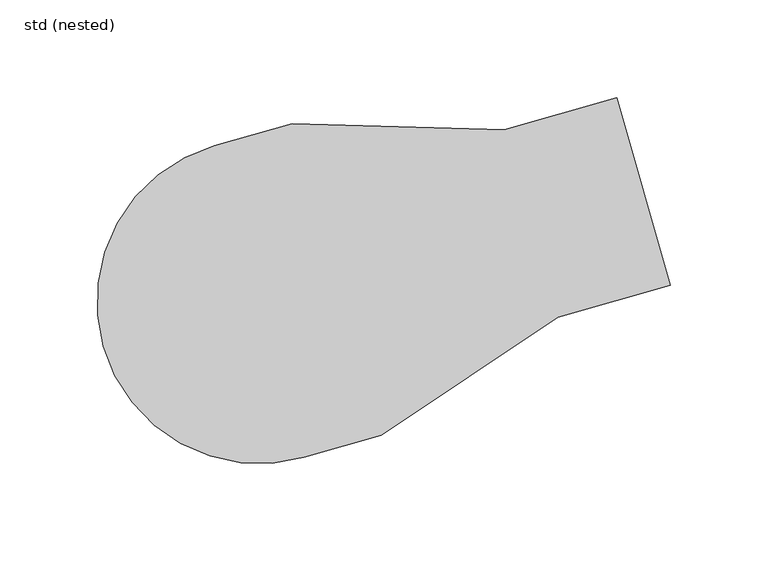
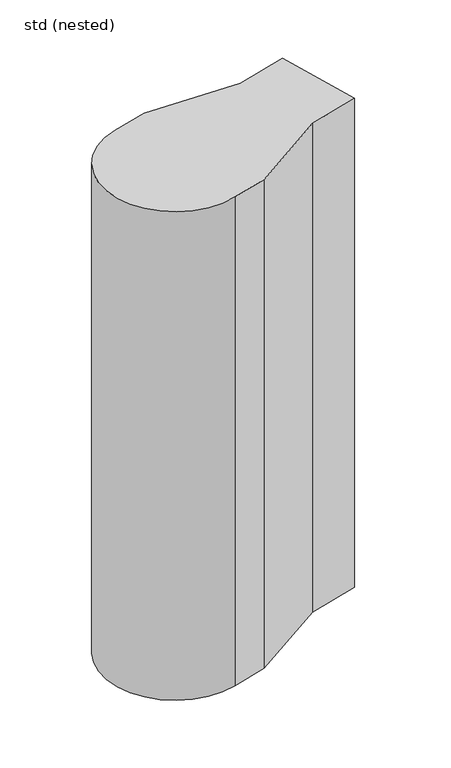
"""IFC4 building model written with IfcOpenShell, lengths in millimetres: unitary equipment geometry, ZZZ_do not use_ME_WPB_pump muliflex_ACO -SH : std (nested)."""

from ifc_helpers import new_model, si_unit, point, frame, frame_2d, origin, place, context, project, spatial, polyline, circle_curve, trimmed, segment, composite_curve, outline, extrude, source, transform, mapped, element, save


def std_nested_3f7b8610(model_context):
    return source(origin(), model_context, "Body", "SweptSolid", [
        extrude(outline(composite_curve([segment(polyline([(-38.514864, -56.0291579), (1.3774964, -44.5902077), (109.9641147, -47.7833773), (167.6398164, -31.245136), (195.203552, -127.3713056), (137.5278502, -143.9095469), (47.1332975, -204.1596492), (7.2409371, -215.5985995)]), True, "CONTINUOUS"), segment(trimmed(circle_curve(frame_2d((-15.6369635, -135.8138787)), 83.0), [point((7.2409371, -215.5985995))], [point((-38.514864, -56.0291579))], False, "CARTESIAN"), True, "CONTINUOUS")], self_intersect=False)), frame((0.0, 0.0, 33.0), z_axis=(0.0, 0.0, 1.0), x_axis=(1.0, 0.0, 0.0)), (0.0, 0.0, 1.0), 592.0),
    ])


if __name__ == "__main__":
    model = new_model("IFC4")
    model_context = context("Model", 3, world=origin())
    ifc_project = project(units=[si_unit("LENGTHUNIT", "METRE", prefix="MILLI")], contexts=[model_context])
    site = spatial("IfcSite", under=ifc_project)
    building = spatial("IfcBuilding", under=site)
    placement = place(None, origin())
    std_nested_shape = std_nested_3f7b8610(model_context)
    element("IfcUnitaryEquipment", 1, ObjectType="ZZZ_do not use_ME_WPB_pump muliflex_ACO -SH : std (nested)", at=placement, inside=building, context=model_context, shape_type="MappedRepresentation", body=[
        mapped(std_nested_shape, transform((0.0, 0.0, 0.0), x_axis=(1.0, 0.0, 0.0), y_axis=(0.0, 1.0, 0.0), z_axis=(0.0, 0.0, 1.0))),
    ])
    save(model, "model.ifc")
